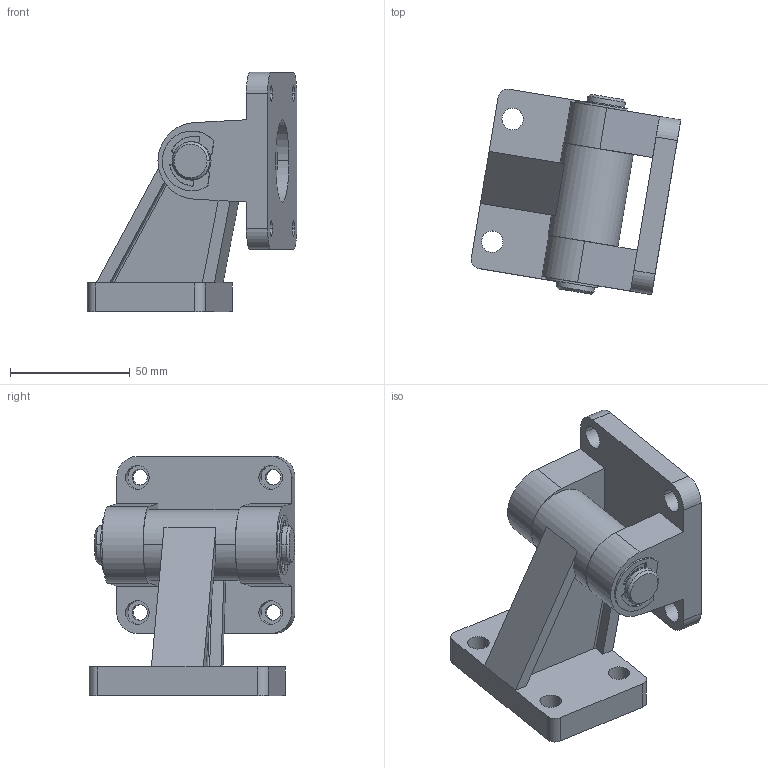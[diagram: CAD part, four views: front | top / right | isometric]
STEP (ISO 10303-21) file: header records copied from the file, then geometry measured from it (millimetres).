
FILE_DESCRIPTION(('CATIA V5 STEP Exchange'),'2;1');
FILE_NAME('D:\stp file for catalog\BAST-CAS\CAS 63.stp','2018-06-13T06:18:14+00:00',('none'),('none'),'CATIA Version 5-6 Release 2016','CATIA V5 STEP AP203','none');
FILE_SCHEMA(('CONFIG_CONTROL_DESIGN'));
Length unit declared in the file: millimetre
Products named in the file (1): PNC-CAS 63
Assembly tree (5 placements, depth 2):
  PNC-CAS 63
    #57
    #811
    #2092
    #2561
    #3958
Bounding box: 87.55 x 86 x 100 mm (x, y, z)
Volume: 176451.6 mm3; surface area: 51222.2 mm2
Topology: 5 solids, 5 shells, 158 faces, 405 edges, 266 vertices
Faces by surface type: cylinder 86, plane 64, cone 8
Entity records: 4691 total; most frequent: CARTESIAN_POINT 854, ORIENTED_EDGE 810, DIRECTION 647, EDGE_CURVE 405, AXIS2_PLACEMENT_3D 305, VERTEX_POINT 266, VECTOR 217, LINE 217
